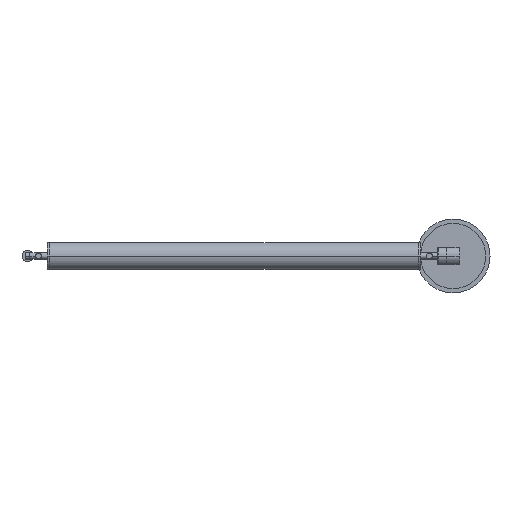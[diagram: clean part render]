
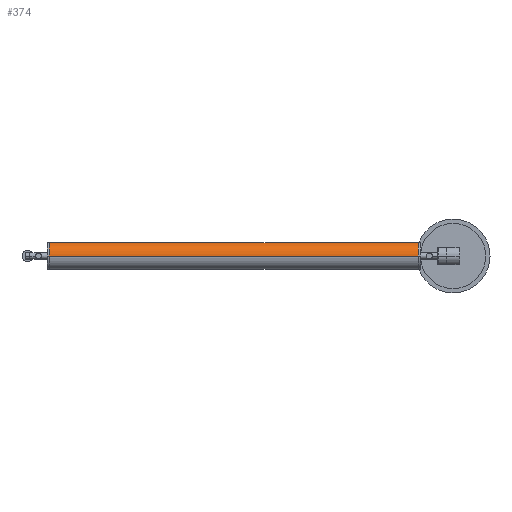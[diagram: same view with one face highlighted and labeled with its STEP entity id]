
A CAD part, front view. The second image highlights one B-rep face of the part: STEP entity #374.
In plain terms, the highlighted cylindrical face has radius 30.889 mm (diameter 61.777 mm), a partial arc.
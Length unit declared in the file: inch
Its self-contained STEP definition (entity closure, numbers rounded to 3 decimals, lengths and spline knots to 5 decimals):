
#19 = DIRECTION ( 'NONE',  ( 1., 0., 0. ) ) ;
#53 = ORIENTED_EDGE ( 'NONE', *, *, #1036, .T. ) ;
#74 = DIRECTION ( 'NONE',  ( 0., -1., 0. ) ) ;
#137 = VERTEX_POINT ( 'NONE', #1445 ) ;
#246 = DIRECTION ( 'NONE',  ( 0., -1., 0. ) ) ;
#254 = DIRECTION ( 'NONE',  ( -1., 0., 0. ) ) ;
#374 = ADVANCED_FACE ( 'NONE', ( #2187 ), #1569, .T. ) ;
#444 = EDGE_CURVE ( 'NONE', #862, #137, #1191, .T. ) ;
#526 = CARTESIAN_POINT ( 'NONE',  ( 16.73228, 1.21608, 0. ) ) ;
#529 = CARTESIAN_POINT ( 'NONE',  ( 16.92921, 0., 0. ) ) ;
#665 = LINE ( 'NONE', #863, #1294 ) ;
#675 = VERTEX_POINT ( 'NONE', #526 ) ;
#810 = CIRCLE ( 'NONE', #1687, 1.21608 ) ;
#862 = VERTEX_POINT ( 'NONE', #2256 ) ;
#863 = CARTESIAN_POINT ( 'NONE',  ( 16.92921, 1.21608, 0. ) ) ;
#946 = ORIENTED_EDGE ( 'NONE', *, *, #444, .F. ) ;
#970 = VECTOR ( 'NONE', #1409, 39.37008 ) ;
#1030 = EDGE_CURVE ( 'NONE', #1055, #137, #1152, .T. ) ;
#1036 = EDGE_CURVE ( 'NONE', #862, #675, #810, .T. ) ;
#1055 = VERTEX_POINT ( 'NONE', #1543 ) ;
#1152 = CIRCLE ( 'NONE', #2242, 1.21608 ) ;
#1191 = LINE ( 'NONE', #1649, #970 ) ;
#1294 = VECTOR ( 'NONE', #254, 39.37008 ) ;
#1344 = EDGE_LOOP ( 'NONE', ( #53, #2365, #1541, #946 ) ) ;
#1355 = DIRECTION ( 'NONE',  ( -1., 0., 0. ) ) ;
#1409 = DIRECTION ( 'NONE',  ( -1., 0., 0. ) ) ;
#1445 = CARTESIAN_POINT ( 'NONE',  ( -16.88976, -1.21608, 0. ) ) ;
#1455 = CARTESIAN_POINT ( 'NONE',  ( 16.73228, 0., 0. ) ) ;
#1541 = ORIENTED_EDGE ( 'NONE', *, *, #1030, .T. ) ;
#1543 = CARTESIAN_POINT ( 'NONE',  ( -16.88976, 1.21608, 0. ) ) ;
#1569 = CYLINDRICAL_SURFACE ( 'NONE', #1978, 1.21608 ) ;
#1649 = CARTESIAN_POINT ( 'NONE',  ( 16.92921, -1.21608, 0. ) ) ;
#1660 = CARTESIAN_POINT ( 'NONE',  ( -16.88976, 0., 0. ) ) ;
#1687 = AXIS2_PLACEMENT_3D ( 'NONE', #1455, #2281, #246 ) ;
#1978 = AXIS2_PLACEMENT_3D ( 'NONE', #529, #1355, #74 ) ;
#2012 = EDGE_CURVE ( 'NONE', #675, #1055, #665, .T. ) ;
#2187 = FACE_OUTER_BOUND ( 'NONE', #1344, .T. ) ;
#2242 = AXIS2_PLACEMENT_3D ( 'NONE', #1660, #19, #2483 ) ;
#2256 = CARTESIAN_POINT ( 'NONE',  ( 16.73228, -1.21608, 0. ) ) ;
#2281 = DIRECTION ( 'NONE',  ( -1., 0., 0. ) ) ;
#2365 = ORIENTED_EDGE ( 'NONE', *, *, #2012, .T. ) ;
#2483 = DIRECTION ( 'NONE',  ( 0., 1., 0. ) ) ;
